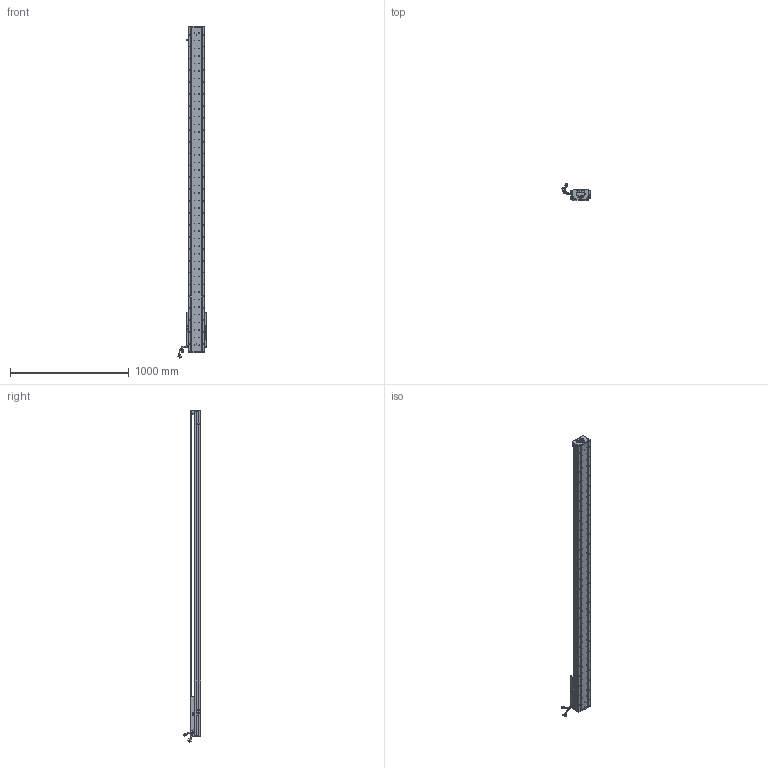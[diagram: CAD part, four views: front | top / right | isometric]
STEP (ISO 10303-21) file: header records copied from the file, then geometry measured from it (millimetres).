
FILE_DESCRIPTION (( 'STEP AP203' ), '1' );
FILE_NAME ('Z4-RY140D-1-L500-B-K.SLDASM_2350.step', '2021-05-17T08:19:30', ( '盈信电脑' ), ( '东莞市道滘镇水果街19号' ), 'SwSTEP 2.0', 'SolidWorks 2016', '' );
FILE_SCHEMA (( 'CONFIG_CONTROL_DESIGN' ));
Length unit declared in the file: millimetre
Products named in the file (36): 詩湍狟揤裔; SCREW-M1.6; SCALE-Part-2; HARNESS-Part-1; Z-RY140感应器672光电感应片; 覜茼ん672; SCALE-Part-1; SEAL-Part-1; HARNESS; Z4-RY140-L500直线电机模组底座_2350; Z-140詩湍傷裔啣; HOLDER0; COVER-Part-1; LABEL-Part-1; 榋妏寠巭燃_暯_M2_2; HARNESS-Part-2; Z4-RY140圉猾敕臏賑輸(21遴); 140蚥薯蝶輸; SEAL; Z4-RY140D-1-L500-B-K.SLDASM_2350; Z4-RY140-L500詩湍100mm遵_2350; 詩湍奻揤裔; SCALE; COVER; PBU_SHEET; 140-Z-臏賑輸盄裔(21遴); SCREW-M1.7-1; SCREW-M1.6-3; PSLH080_PSLF2; SHIELDPLATE; 080黍杅芛假蚾釱21遴; SCREW-M1.6-1; LABEL; SCREW-M1.6-2; 140雄赽晤鎢ん堤盄; SCREW-M1.7
Assembly tree (41 placements, depth 4):
  Z4-RY140D-1-L500-B-K.SLDASM_2350
    Z4-RY140-L500直线电机模组底座_2350
    Z-RY140感应器672光电感应片
    Z4-RY140圉猾敕臏賑輸(21遴)
    覜茼ん672  x3
    Z4-RY140-L500詩湍100mm遵_2350
    PSLH080_PSLF2
      SCALE
        SCALE-Part-1
        SCALE-Part-2
      HARNESS
        HARNESS-Part-1
        HARNESS-Part-2
      LABEL
        LABEL-Part-1
      COVER
        COVER-Part-1
      SEAL
        SEAL-Part-1
      榋妏寠巭燃_暯_M2_2
      SHIELDPLATE
      SCREW-M1.7
      SCREW-M1.7-1
      PBU_SHEET
      SCREW-M1.6
      SCREW-M1.6-1
      SCREW-M1.6-2
      SCREW-M1.6-3
      HOLDER0
    080黍杅芛假蚾釱21遴
    140-Z-臏賑輸盄裔(21遴)
    Z-140詩湍傷裔啣  x2
    詩湍狟揤裔  x2
    詩湍奻揤裔  x2
    140蚥薯蝶輸  x2
    140雄赽晤鎢ん堤盄
Bounding box: 239.79 x 143.88 x 2790.87 mm (x, y, z)
Volume: 9098612.4 mm3; surface area: 2350224.3 mm2
Topology: 36 solids, 36 shells, 4216 faces, 11482 edges, 7271 vertices
Faces by surface type: cylinder 2296, plane 1384, cone 414, torus 69, bspline 53
Entity records: 134210 total; most frequent: CARTESIAN_POINT 38041, ORIENTED_EDGE 19860, DIRECTION 18358, EDGE_CURVE 9930, AXIS2_PLACEMENT_3D 6836, VERTEX_POINT 6439, VECTOR 4686, LINE 4686
